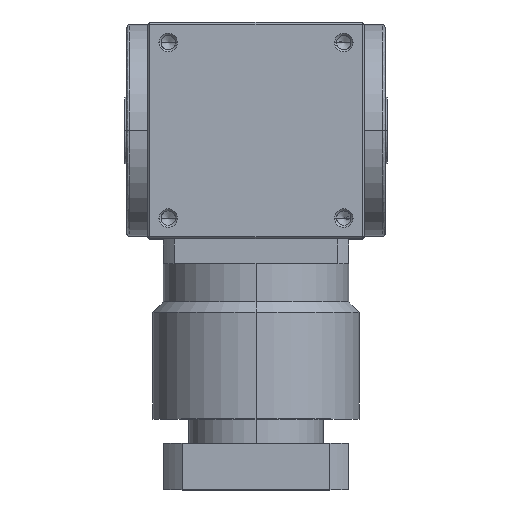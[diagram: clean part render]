
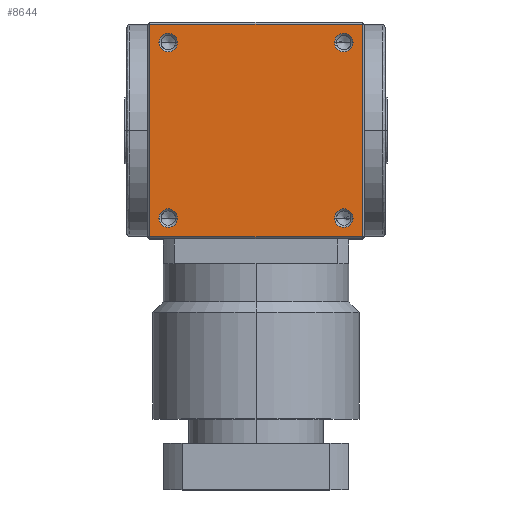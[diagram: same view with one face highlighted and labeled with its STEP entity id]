
A CAD part, top view. The second image highlights one B-rep face of the part: STEP entity #8644.
In plain terms, the highlighted planar face has unit normal (0, 0, 1).
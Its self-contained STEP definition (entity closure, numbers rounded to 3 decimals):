
#27 = ORIENTED_EDGE ( 'NONE', *, *, #577, .F. ) ;
#33 = DIRECTION ( 'NONE',  ( 1., 0., 0. ) ) ;
#34 = EDGE_CURVE ( 'NONE', #4979, #1853, #2729, .T. ) ;
#48 = CARTESIAN_POINT ( 'NONE',  ( -85., -85., 105. ) ) ;
#180 = ORIENTED_EDGE ( 'NONE', *, *, #424, .F. ) ;
#202 = ORIENTED_EDGE ( 'NONE', *, *, #439, .F. ) ;
#331 = DIRECTION ( 'NONE',  ( 0., 0., 1. ) ) ;
#368 = EDGE_CURVE ( 'NONE', #3328, #3435, #6146, .T. ) ;
#381 = EDGE_CURVE ( 'NONE', #1853, #4979, #626, .T. ) ;
#404 = EDGE_CURVE ( 'NONE', #8288, #7918, #2839, .T. ) ;
#424 = EDGE_CURVE ( 'NONE', #5630, #1502, #4254, .T. ) ;
#439 = EDGE_CURVE ( 'NONE', #6008, #9357, #4375, .T. ) ;
#469 = DIRECTION ( 'NONE',  ( 1., 0., 0. ) ) ;
#532 = EDGE_CURVE ( 'NONE', #9357, #6657, #5278, .T. ) ;
#577 = EDGE_CURVE ( 'NONE', #3435, #3328, #2188, .T. ) ;
#602 = EDGE_CURVE ( 'NONE', #6657, #1289, #3411, .T. ) ;
#626 = CIRCLE ( 'NONE', #4360, 9. ) ;
#676 = AXIS2_PLACEMENT_3D ( 'NONE', #4701, #4712, #4728 ) ;
#692 = AXIS2_PLACEMENT_3D ( 'NONE', #10725, #10774, #33 ) ;
#786 = EDGE_CURVE ( 'NONE', #6008, #1289, #7678, .T. ) ;
#1100 = CARTESIAN_POINT ( 'NONE',  ( 94., 85., 105. ) ) ;
#1118 = DIRECTION ( 'NONE',  ( -1., 0., 0. ) ) ;
#1273 = CARTESIAN_POINT ( 'NONE',  ( -85., 85., 105. ) ) ;
#1289 = VERTEX_POINT ( 'NONE', #3648 ) ;
#1443 = VECTOR ( 'NONE', #3931, 1000. ) ;
#1494 = ORIENTED_EDGE ( 'NONE', *, *, #381, .F. ) ;
#1502 = VERTEX_POINT ( 'NONE', #5152 ) ;
#1676 = FACE_BOUND ( 'NONE', #9484, .T. ) ;
#1853 = VERTEX_POINT ( 'NONE', #9911 ) ;
#2188 = CIRCLE ( 'NONE', #2721, 9. ) ;
#2232 = EDGE_CURVE ( 'NONE', #7918, #8288, #6586, .T. ) ;
#2335 = DIRECTION ( 'NONE',  ( 1., 0., 0. ) ) ;
#2404 = CARTESIAN_POINT ( 'NONE',  ( -85., -85., 105. ) ) ;
#2406 = DIRECTION ( 'NONE',  ( 0., 0., 1. ) ) ;
#2419 = DIRECTION ( 'NONE',  ( 1., 0., 0. ) ) ;
#2475 = FACE_BOUND ( 'NONE', #7781, .T. ) ;
#2721 = AXIS2_PLACEMENT_3D ( 'NONE', #4149, #4163, #4165 ) ;
#2729 = CIRCLE ( 'NONE', #6774, 9. ) ;
#2759 = CARTESIAN_POINT ( 'NONE',  ( -94., -85., 105. ) ) ;
#2785 = CARTESIAN_POINT ( 'NONE',  ( 76., 85., 105. ) ) ;
#2839 = CIRCLE ( 'NONE', #8643, 9. ) ;
#3168 = EDGE_LOOP ( 'NONE', ( #6902, #202, #11017, #10122 ) ) ;
#3328 = VERTEX_POINT ( 'NONE', #9120 ) ;
#3411 = LINE ( 'NONE', #3838, #5789 ) ;
#3435 = VERTEX_POINT ( 'NONE', #11577 ) ;
#3648 = CARTESIAN_POINT ( 'NONE',  ( -103., 103., 105. ) ) ;
#3735 = EDGE_LOOP ( 'NONE', ( #1494, #4753 ) ) ;
#3838 = CARTESIAN_POINT ( 'NONE',  ( -103., 0., 105. ) ) ;
#3856 = CARTESIAN_POINT ( 'NONE',  ( 0., 0., 105. ) ) ;
#3931 = DIRECTION ( 'NONE',  ( -1., 0., 0. ) ) ;
#3943 = CARTESIAN_POINT ( 'NONE',  ( 0., -103., 105. ) ) ;
#4149 = CARTESIAN_POINT ( 'NONE',  ( 85., -85., 105. ) ) ;
#4163 = DIRECTION ( 'NONE',  ( 0., 0., 1. ) ) ;
#4165 = DIRECTION ( 'NONE',  ( 1., 0., 0. ) ) ;
#4224 = AXIS2_PLACEMENT_3D ( 'NONE', #1273, #10216, #2335 ) ;
#4254 = CIRCLE ( 'NONE', #676, 9. ) ;
#4276 = ORIENTED_EDGE ( 'NONE', *, *, #2232, .F. ) ;
#4360 = AXIS2_PLACEMENT_3D ( 'NONE', #48, #331, #469 ) ;
#4375 = LINE ( 'NONE', #11293, #4416 ) ;
#4416 = VECTOR ( 'NONE', #5023, 1000. ) ;
#4590 = DIRECTION ( 'NONE',  ( 0., 1., 0. ) ) ;
#4701 = CARTESIAN_POINT ( 'NONE',  ( -85., 85., 105. ) ) ;
#4712 = DIRECTION ( 'NONE',  ( 0., 0., 1. ) ) ;
#4728 = DIRECTION ( 'NONE',  ( 1., 0., 0. ) ) ;
#4753 = ORIENTED_EDGE ( 'NONE', *, *, #34, .F. ) ;
#4853 = VECTOR ( 'NONE', #8773, 1000. ) ;
#4979 = VERTEX_POINT ( 'NONE', #2759 ) ;
#5023 = DIRECTION ( 'NONE',  ( 0., -1., 0. ) ) ;
#5072 = CARTESIAN_POINT ( 'NONE',  ( 85., 85., 105. ) ) ;
#5152 = CARTESIAN_POINT ( 'NONE',  ( -94., 85., 105. ) ) ;
#5278 = LINE ( 'NONE', #3943, #1443 ) ;
#5328 = FACE_BOUND ( 'NONE', #3735, .T. ) ;
#5630 = VERTEX_POINT ( 'NONE', #6963 ) ;
#5649 = DIRECTION ( 'NONE',  ( 0., 0., -1. ) ) ;
#5789 = VECTOR ( 'NONE', #4590, 1000. ) ;
#6008 = VERTEX_POINT ( 'NONE', #10638 ) ;
#6064 = FACE_BOUND ( 'NONE', #10345, .T. ) ;
#6146 = CIRCLE ( 'NONE', #692, 9. ) ;
#6586 = CIRCLE ( 'NONE', #11174, 9. ) ;
#6588 = DIRECTION ( 'NONE',  ( 0., 0., 1. ) ) ;
#6657 = VERTEX_POINT ( 'NONE', #8290 ) ;
#6774 = AXIS2_PLACEMENT_3D ( 'NONE', #2404, #2406, #2419 ) ;
#6902 = ORIENTED_EDGE ( 'NONE', *, *, #532, .F. ) ;
#6963 = CARTESIAN_POINT ( 'NONE',  ( -76., 85., 105. ) ) ;
#7035 = DIRECTION ( 'NONE',  ( 1., 0., 0. ) ) ;
#7098 = FACE_OUTER_BOUND ( 'NONE', #3168, .T. ) ;
#7616 = ORIENTED_EDGE ( 'NONE', *, *, #368, .F. ) ;
#7678 = LINE ( 'NONE', #8722, #4853 ) ;
#7781 = EDGE_LOOP ( 'NONE', ( #7616, #27 ) ) ;
#7918 = VERTEX_POINT ( 'NONE', #2785 ) ;
#8117 = DIRECTION ( 'NONE',  ( 1., 0., 0. ) ) ;
#8132 = DIRECTION ( 'NONE',  ( 0., 0., 1. ) ) ;
#8133 = CARTESIAN_POINT ( 'NONE',  ( 85., 85., 105. ) ) ;
#8288 = VERTEX_POINT ( 'NONE', #1100 ) ;
#8290 = CARTESIAN_POINT ( 'NONE',  ( -103., -103., 105. ) ) ;
#8639 = EDGE_CURVE ( 'NONE', #1502, #5630, #9232, .T. ) ;
#8643 = AXIS2_PLACEMENT_3D ( 'NONE', #5072, #6588, #7035 ) ;
#8644 = ADVANCED_FACE ( 'NONE', ( #7098, #6064, #1676, #5328, #2475 ), #11605, .F. ) ;
#8722 = CARTESIAN_POINT ( 'NONE',  ( 0., 103., 105. ) ) ;
#8773 = DIRECTION ( 'NONE',  ( -1., 0., 0. ) ) ;
#9120 = CARTESIAN_POINT ( 'NONE',  ( 94., -85., 105. ) ) ;
#9232 = CIRCLE ( 'NONE', #4224, 9. ) ;
#9357 = VERTEX_POINT ( 'NONE', #10477 ) ;
#9484 = EDGE_LOOP ( 'NONE', ( #11519, #4276 ) ) ;
#9486 = ORIENTED_EDGE ( 'NONE', *, *, #8639, .F. ) ;
#9911 = CARTESIAN_POINT ( 'NONE',  ( -76., -85., 105. ) ) ;
#10122 = ORIENTED_EDGE ( 'NONE', *, *, #602, .F. ) ;
#10216 = DIRECTION ( 'NONE',  ( 0., 0., 1. ) ) ;
#10345 = EDGE_LOOP ( 'NONE', ( #180, #9486 ) ) ;
#10477 = CARTESIAN_POINT ( 'NONE',  ( 103., -103., 105. ) ) ;
#10638 = CARTESIAN_POINT ( 'NONE',  ( 103., 103., 105. ) ) ;
#10725 = CARTESIAN_POINT ( 'NONE',  ( 85., -85., 105. ) ) ;
#10774 = DIRECTION ( 'NONE',  ( 0., 0., 1. ) ) ;
#11017 = ORIENTED_EDGE ( 'NONE', *, *, #786, .T. ) ;
#11174 = AXIS2_PLACEMENT_3D ( 'NONE', #8133, #8132, #8117 ) ;
#11293 = CARTESIAN_POINT ( 'NONE',  ( 103., 0., 105. ) ) ;
#11519 = ORIENTED_EDGE ( 'NONE', *, *, #404, .F. ) ;
#11577 = CARTESIAN_POINT ( 'NONE',  ( 76., -85., 105. ) ) ;
#11605 = PLANE ( 'NONE',  #11646 ) ;
#11646 = AXIS2_PLACEMENT_3D ( 'NONE', #3856, #5649, #1118 ) ;
